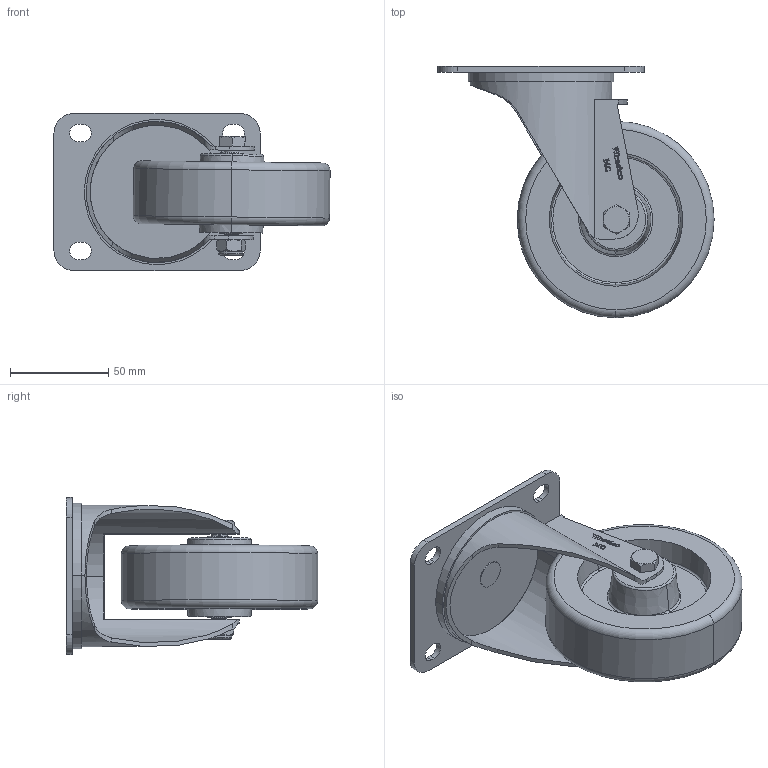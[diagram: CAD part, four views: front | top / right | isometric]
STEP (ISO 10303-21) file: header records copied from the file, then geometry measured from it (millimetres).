
FILE_DESCRIPTION (( 'STEP AP214' ), '1' );
FILE_NAME ('MCU100-P.step', '2023-11-29T20:28:25', ( '' ), ( '' ), 'SwSTEP 2.0', 'SolidWorks 2022', '' );
FILE_SCHEMA (( 'AUTOMOTIVE_DESIGN' ));
Length unit declared in the file: millimetre
Products named in the file (7): MCU100; M8x55; SP12-8-41; MCU100-P; MC 105x80 Swivel Plate; MC100-P; M8Nyloc
Assembly tree (6 placements, depth 2):
  MCU100-P
    M8Nyloc
    M8x55
    MC100-P
    MC 105x80 Swivel Plate
    SP12-8-41
    MCU100
Bounding box: 140.63 x 128 x 80 mm (x, y, z)
Volume: 246393 mm3; surface area: 84295.1 mm2
Topology: 6 solids, 6 shells, 408 faces, 1084 edges, 713 vertices
Faces by surface type: plane 174, cylinder 118, bspline 70, cone 28, torus 16, sphere 2
Entity records: 21801 total; most frequent: CARTESIAN_POINT 11755, ORIENTED_EDGE 2168, DIRECTION 1645, EDGE_CURVE 1084, VERTEX_POINT 713, LINE 597, VECTOR 597, AXIS2_PLACEMENT_3D 524
